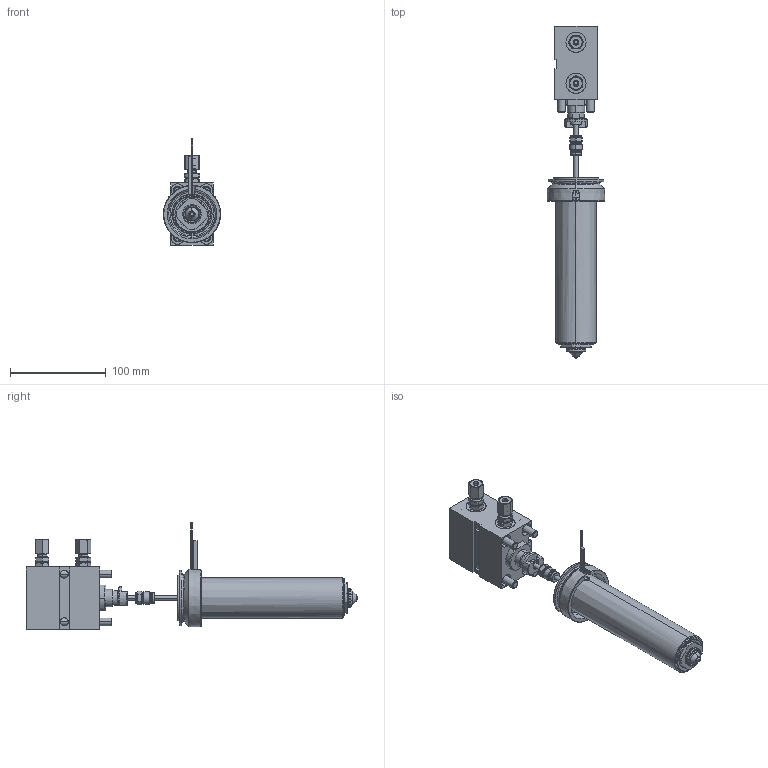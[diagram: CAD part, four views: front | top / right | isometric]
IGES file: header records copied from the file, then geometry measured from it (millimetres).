
Start section: Write IGES format                                    datakit 2008 (c)
Global section: file name: Unknown; native system: DATAKIT Converter; preprocessor: Unknown; author: Unknown; organization: Unknown; date: 950613.180003; units: millimetre
Bounding box: 59.99 x 347.5 x 111.15 mm (x, y, z)
Surface area: 185303.6 mm2 (no closed solid volume)
Topology: 0 solids, 0 shells, 787 faces, 3552 edges, 3534 vertices
Faces by surface type: revolution 508, bspline 279
